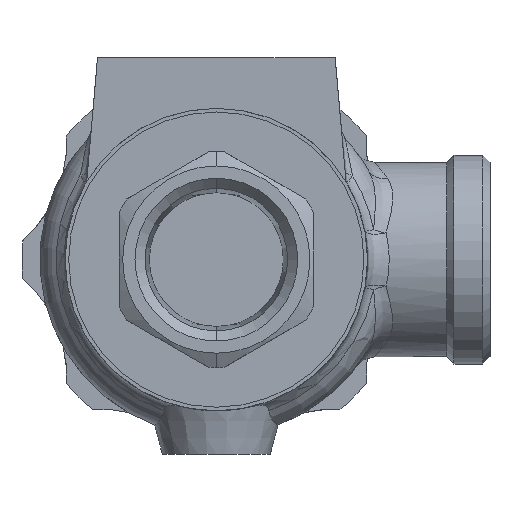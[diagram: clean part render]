
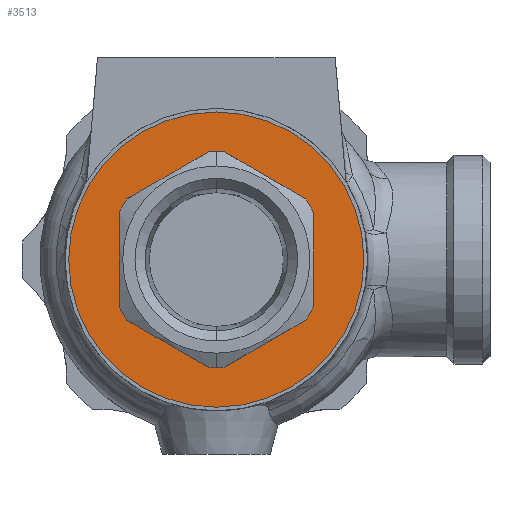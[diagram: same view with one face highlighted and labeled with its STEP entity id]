
A CAD part, front view. The second image highlights one B-rep face of the part: STEP entity #3513.
In plain terms, the highlighted planar face has unit normal (0, -1, 0).
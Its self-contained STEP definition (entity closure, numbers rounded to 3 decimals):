
#153 = CARTESIAN_POINT ( 'NONE',  ( -8.625, -25., -20.568 ) ) ;
#192 = EDGE_CURVE ( 'NONE', #5566, #2976, #1535, .T. ) ;
#238 = DIRECTION ( 'NONE',  ( 0., 0., -1. ) ) ;
#294 = VERTEX_POINT ( 'NONE', #5172 ) ;
#367 = DIRECTION ( 'NONE',  ( 0., -1., 0. ) ) ;
#438 = DIRECTION ( 'NONE',  ( 0., -1., 0. ) ) ;
#468 = CARTESIAN_POINT ( 'NONE',  ( -13.5, -25., 0. ) ) ;
#537 = CARTESIAN_POINT ( 'NONE',  ( -22.125, -25., 2.815 ) ) ;
#621 = CARTESIAN_POINT ( 'NONE',  ( 0., -25., 0. ) ) ;
#664 = CARTESIAN_POINT ( 'NONE',  ( 12.412, -25., 8.422 ) ) ;
#690 = CIRCLE ( 'NONE', #2514, 15. ) ;
#788 = CARTESIAN_POINT ( 'NONE',  ( -12.412, -25., -8.422 ) ) ;
#792 = CARTESIAN_POINT ( 'NONE',  ( 0., -25., 0. ) ) ;
#813 = VERTEX_POINT ( 'NONE', #664 ) ;
#820 = ORIENTED_EDGE ( 'NONE', *, *, #5407, .F. ) ;
#853 = CARTESIAN_POINT ( 'NONE',  ( 0., -25., 0. ) ) ;
#897 = AXIS2_PLACEMENT_3D ( 'NONE', #2352, #6195, #4243 ) ;
#1012 = EDGE_CURVE ( 'NONE', #813, #1131, #4759, .T. ) ;
#1057 = EDGE_CURVE ( 'NONE', #2765, #4098, #5895, .T. ) ;
#1131 = VERTEX_POINT ( 'NONE', #4265 ) ;
#1154 = DIRECTION ( 'NONE',  ( 0., -1., 0. ) ) ;
#1221 = ORIENTED_EDGE ( 'NONE', *, *, #5749, .F. ) ;
#1247 = EDGE_CURVE ( 'NONE', #2178, #5566, #2417, .T. ) ;
#1339 = EDGE_CURVE ( 'NONE', #3399, #2320, #5191, .T. ) ;
#1383 = DIRECTION ( 'NONE',  ( 0., 1., 0. ) ) ;
#1413 = CIRCLE ( 'NONE', #3515, 20.5 ) ;
#1535 = CIRCLE ( 'NONE', #2324, 15. ) ;
#1575 = EDGE_LOOP ( 'NONE', ( #8056, #7389 ) ) ;
#1674 = CARTESIAN_POINT ( 'NONE',  ( -12.412, -25., 8.422 ) ) ;
#1738 = FACE_OUTER_BOUND ( 'NONE', #1575, .T. ) ;
#1799 = DIRECTION ( 'NONE',  ( -0.866, 0., -0.5 ) ) ;
#1841 = CARTESIAN_POINT ( 'NONE',  ( -13.5, -25., 6.538 ) ) ;
#1898 = EDGE_CURVE ( 'NONE', #4098, #8017, #6998, .T. ) ;
#1936 = DIRECTION ( 'NONE',  ( 0., -1., 0. ) ) ;
#2011 = DIRECTION ( 'NONE',  ( 0., 0., -1. ) ) ;
#2169 = LINE ( 'NONE', #153, #5995 ) ;
#2178 = VERTEX_POINT ( 'NONE', #4906 ) ;
#2222 = DIRECTION ( 'NONE',  ( 0.866, 0., -0.5 ) ) ;
#2320 = VERTEX_POINT ( 'NONE', #6363 ) ;
#2324 = AXIS2_PLACEMENT_3D ( 'NONE', #7387, #1936, #2439 ) ;
#2352 = CARTESIAN_POINT ( 'NONE',  ( -20.5, -25., 0. ) ) ;
#2376 = VERTEX_POINT ( 'NONE', #4616 ) ;
#2390 = LINE ( 'NONE', #468, #6431 ) ;
#2417 = LINE ( 'NONE', #537, #3835 ) ;
#2439 = DIRECTION ( 'NONE',  ( 0., 0., -1. ) ) ;
#2464 = CIRCLE ( 'NONE', #3242, 20.5 ) ;
#2513 = ORIENTED_EDGE ( 'NONE', *, *, #3510, .F. ) ;
#2514 = AXIS2_PLACEMENT_3D ( 'NONE', #6471, #5117, #2011 ) ;
#2655 = VERTEX_POINT ( 'NONE', #3358 ) ;
#2690 = DIRECTION ( 'NONE',  ( 0., 0., 1. ) ) ;
#2732 = ORIENTED_EDGE ( 'NONE', *, *, #1339, .F. ) ;
#2765 = VERTEX_POINT ( 'NONE', #788 ) ;
#2860 = AXIS2_PLACEMENT_3D ( 'NONE', #621, #1154, #3102 ) ;
#2900 = DIRECTION ( 'NONE',  ( 0., 0., -1. ) ) ;
#2957 = CARTESIAN_POINT ( 'NONE',  ( 0., -25., 20.5 ) ) ;
#2976 = VERTEX_POINT ( 'NONE', #1841 ) ;
#3102 = DIRECTION ( 'NONE',  ( 0., 0., -1. ) ) ;
#3242 = AXIS2_PLACEMENT_3D ( 'NONE', #7258, #4889, #4846 ) ;
#3281 = DIRECTION ( 'NONE',  ( 0., -1., 0. ) ) ;
#3358 = CARTESIAN_POINT ( 'NONE',  ( 1.088, -25., -14.961 ) ) ;
#3367 = EDGE_CURVE ( 'NONE', #8017, #2655, #4952, .T. ) ;
#3399 = VERTEX_POINT ( 'NONE', #5961 ) ;
#3480 = EDGE_CURVE ( 'NONE', #2655, #7843, #2169, .T. ) ;
#3486 = CARTESIAN_POINT ( 'NONE',  ( -8.625, -25., 20.568 ) ) ;
#3510 = EDGE_CURVE ( 'NONE', #2320, #813, #4424, .T. ) ;
#3513 = ADVANCED_FACE ( 'NONE', ( #5623, #1738 ), #5544, .T. ) ;
#3515 = AXIS2_PLACEMENT_3D ( 'NONE', #4499, #1383, #2690 ) ;
#3564 = CARTESIAN_POINT ( 'NONE',  ( -22.125, -25., -2.815 ) ) ;
#3835 = VECTOR ( 'NONE', #1799, 1000. ) ;
#3866 = AXIS2_PLACEMENT_3D ( 'NONE', #4824, #367, #2900 ) ;
#4098 = VERTEX_POINT ( 'NONE', #5241 ) ;
#4156 = DIRECTION ( 'NONE',  ( 0., 0., -1. ) ) ;
#4243 = DIRECTION ( 'NONE',  ( 0., 0., -1. ) ) ;
#4248 = CARTESIAN_POINT ( 'NONE',  ( 0., -25., 0. ) ) ;
#4265 = CARTESIAN_POINT ( 'NONE',  ( 1.088, -25., 14.961 ) ) ;
#4424 = CIRCLE ( 'NONE', #7552, 15. ) ;
#4455 = DIRECTION ( 'NONE',  ( 0., 0., 1. ) ) ;
#4499 = CARTESIAN_POINT ( 'NONE',  ( 0., -25., 0. ) ) ;
#4616 = CARTESIAN_POINT ( 'NONE',  ( -13.5, -25., -6.538 ) ) ;
#4741 = DIRECTION ( 'NONE',  ( 0., 0., -1. ) ) ;
#4759 = LINE ( 'NONE', #3486, #5054 ) ;
#4824 = CARTESIAN_POINT ( 'NONE',  ( 0., -25., 0. ) ) ;
#4846 = DIRECTION ( 'NONE',  ( 0., 0., 1. ) ) ;
#4889 = DIRECTION ( 'NONE',  ( 0., 1., 0. ) ) ;
#4906 = CARTESIAN_POINT ( 'NONE',  ( -1.088, -25., 14.961 ) ) ;
#4922 = VERTEX_POINT ( 'NONE', #2957 ) ;
#4952 = CIRCLE ( 'NONE', #7944, 15. ) ;
#5006 = EDGE_CURVE ( 'NONE', #294, #4922, #2464, .T. ) ;
#5054 = VECTOR ( 'NONE', #7246, 1000. ) ;
#5117 = DIRECTION ( 'NONE',  ( 0., -1., 0. ) ) ;
#5147 = DIRECTION ( 'NONE',  ( 0.866, 0., 0.5 ) ) ;
#5172 = CARTESIAN_POINT ( 'NONE',  ( 0., -25., -20.5 ) ) ;
#5191 = LINE ( 'NONE', #5763, #6060 ) ;
#5241 = CARTESIAN_POINT ( 'NONE',  ( -1.088, -25., -14.961 ) ) ;
#5407 = EDGE_CURVE ( 'NONE', #2376, #2765, #7028, .T. ) ;
#5476 = EDGE_CURVE ( 'NONE', #4922, #294, #1413, .T. ) ;
#5485 = ORIENTED_EDGE ( 'NONE', *, *, #1898, .F. ) ;
#5529 = ORIENTED_EDGE ( 'NONE', *, *, #1012, .F. ) ;
#5544 = PLANE ( 'NONE',  #897 ) ;
#5566 = VERTEX_POINT ( 'NONE', #1674 ) ;
#5582 = VECTOR ( 'NONE', #2222, 1000. ) ;
#5592 = ORIENTED_EDGE ( 'NONE', *, *, #1247, .F. ) ;
#5623 = FACE_BOUND ( 'NONE', #7778, .T. ) ;
#5681 = ORIENTED_EDGE ( 'NONE', *, *, #3480, .F. ) ;
#5749 = EDGE_CURVE ( 'NONE', #7843, #3399, #5872, .T. ) ;
#5763 = CARTESIAN_POINT ( 'NONE',  ( 13.5, -25., 0. ) ) ;
#5787 = DIRECTION ( 'NONE',  ( 0., 0., -1. ) ) ;
#5843 = DIRECTION ( 'NONE',  ( 0., -1., 0. ) ) ;
#5872 = CIRCLE ( 'NONE', #6658, 15. ) ;
#5895 = LINE ( 'NONE', #3564, #5582 ) ;
#5923 = ORIENTED_EDGE ( 'NONE', *, *, #6904, .F. ) ;
#5961 = CARTESIAN_POINT ( 'NONE',  ( 13.5, -25., -6.538 ) ) ;
#5995 = VECTOR ( 'NONE', #5147, 1000. ) ;
#6048 = ORIENTED_EDGE ( 'NONE', *, *, #6662, .F. ) ;
#6060 = VECTOR ( 'NONE', #4455, 1000. ) ;
#6195 = DIRECTION ( 'NONE',  ( 0., -1., 0. ) ) ;
#6363 = CARTESIAN_POINT ( 'NONE',  ( 13.5, -25., 6.538 ) ) ;
#6431 = VECTOR ( 'NONE', #4156, 1000. ) ;
#6471 = CARTESIAN_POINT ( 'NONE',  ( 0., -25., 0. ) ) ;
#6528 = ORIENTED_EDGE ( 'NONE', *, *, #192, .F. ) ;
#6535 = ORIENTED_EDGE ( 'NONE', *, *, #1057, .F. ) ;
#6611 = CARTESIAN_POINT ( 'NONE',  ( 12.412, -25., -8.422 ) ) ;
#6658 = AXIS2_PLACEMENT_3D ( 'NONE', #792, #3281, #5787 ) ;
#6662 = EDGE_CURVE ( 'NONE', #2976, #2376, #2390, .T. ) ;
#6904 = EDGE_CURVE ( 'NONE', #1131, #2178, #690, .T. ) ;
#6998 = CIRCLE ( 'NONE', #3866, 15. ) ;
#7028 = CIRCLE ( 'NONE', #2860, 15. ) ;
#7246 = DIRECTION ( 'NONE',  ( -0.866, 0., 0.5 ) ) ;
#7258 = CARTESIAN_POINT ( 'NONE',  ( 0., -25., 0. ) ) ;
#7387 = CARTESIAN_POINT ( 'NONE',  ( 0., -25., 0. ) ) ;
#7389 = ORIENTED_EDGE ( 'NONE', *, *, #5006, .F. ) ;
#7513 = ORIENTED_EDGE ( 'NONE', *, *, #3367, .F. ) ;
#7552 = AXIS2_PLACEMENT_3D ( 'NONE', #853, #5843, #238 ) ;
#7778 = EDGE_LOOP ( 'NONE', ( #6528, #5592, #5923, #5529, #2513, #2732, #1221, #5681, #7513, #5485, #6535, #820, #6048 ) ) ;
#7821 = CARTESIAN_POINT ( 'NONE',  ( 0., -25., -15. ) ) ;
#7843 = VERTEX_POINT ( 'NONE', #6611 ) ;
#7944 = AXIS2_PLACEMENT_3D ( 'NONE', #4248, #438, #4741 ) ;
#8017 = VERTEX_POINT ( 'NONE', #7821 ) ;
#8056 = ORIENTED_EDGE ( 'NONE', *, *, #5476, .F. ) ;
